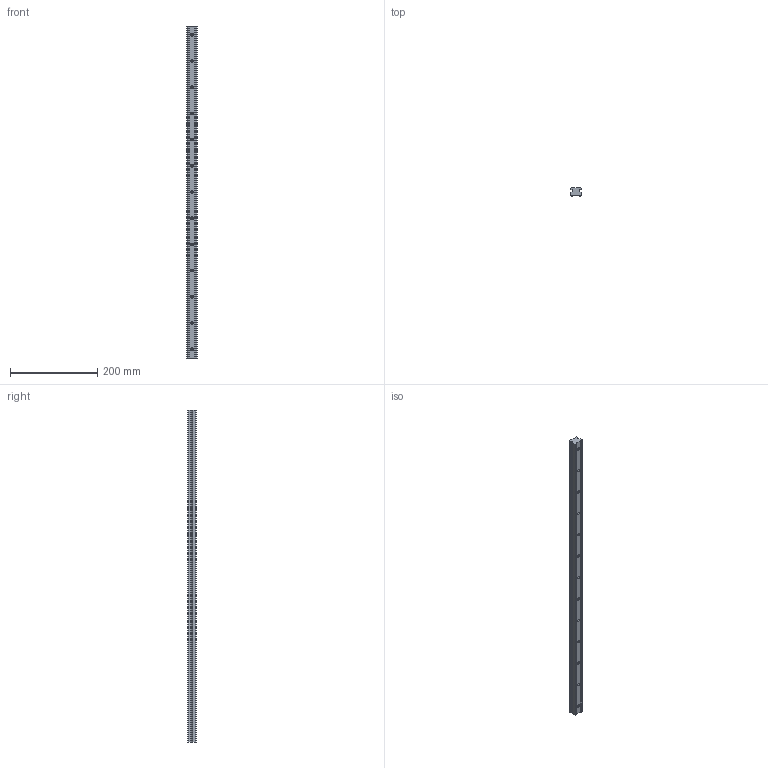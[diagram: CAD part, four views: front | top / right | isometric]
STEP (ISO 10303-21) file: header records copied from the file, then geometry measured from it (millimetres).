
FILE_DESCRIPTION (( 'STEP AP203' ), '1' );
FILE_NAME ('L1016.BRF25-0760.step', '2019-06-13T08:35:51', ( '' ), ( '' ), 'SwSTEP 2.0', 'SolidWorks 2017', '' );
FILE_SCHEMA (( 'CONFIG_CONTROL_DESIGN' ));
Length unit declared in the file: millimetre
Products named in the file (1): L1016.BRF25-0760
Bounding box: 23 x 19.2 x 760 mm (x, y, z)
Volume: 290070.2 mm3; surface area: 70584.1 mm2
Topology: 1 solids, 1 shells, 117 faces, 280 edges, 165 vertices
Faces by surface type: cylinder 56, plane 35, cone 26
Entity records: 3293 total; most frequent: DIRECTION 602, CARTESIAN_POINT 537, ORIENTED_EDGE 508, EDGE_CURVE 254, AXIS2_PLACEMENT_3D 230, VERTEX_POINT 165, EDGE_LOOP 143, VECTOR 142
